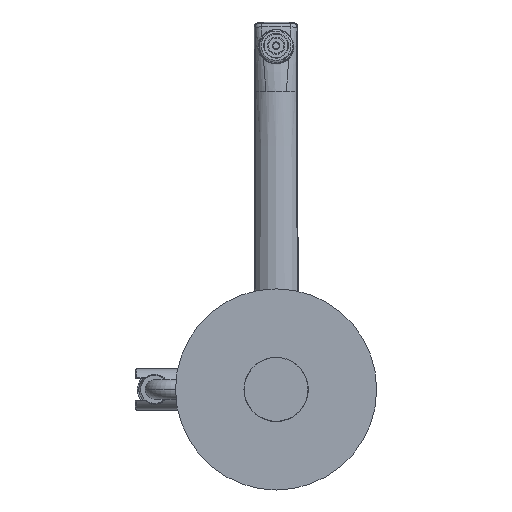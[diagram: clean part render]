
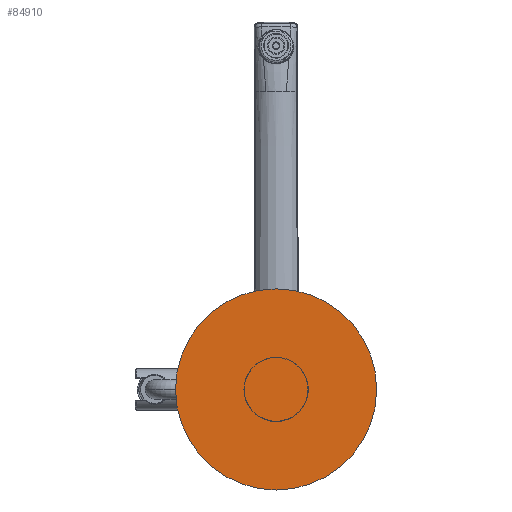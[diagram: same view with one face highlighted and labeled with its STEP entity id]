
A CAD part, front view. The second image highlights one B-rep face of the part: STEP entity #84910.
In plain terms, the highlighted planar face has unit normal (0, -1, 0).
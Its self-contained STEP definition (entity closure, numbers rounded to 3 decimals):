
#84715=CARTESIAN_POINT('',(0.,-876.75,
0.));
#84716=DIRECTION('',(0.,-1.,0.));
#84717=DIRECTION('',(-1.,0.,0.));
#84718=AXIS2_PLACEMENT_3D('',#84715,#84716,#84717);
#84720=CARTESIAN_POINT('',(0.,-876.75,
0.));
#84721=DIRECTION('',(0.,1.,0.));
#84722=DIRECTION('',(-1.,0.,0.));
#84723=AXIS2_PLACEMENT_3D('',#84720,#84721,#84722);
#84725=CARTESIAN_POINT('',(-72.5,-876.75,0.));
#84726=CARTESIAN_POINT('',(72.5,-876.75,0.));
#84727=VERTEX_POINT('',#84725);
#84728=VERTEX_POINT('',#84726);
#84901=CARTESIAN_POINT('',(0.,-876.75,
0.));
#84902=DIRECTION('',(0.,-1.,0.));
#84903=DIRECTION('',(-1.,0.,0.));
#84904=AXIS2_PLACEMENT_3D('',#84901,#84902,#84903);
#84905=PLANE('',#84904);
#84906=ORIENTED_EDGE('',*,*,#84867,.F.);
#84907=ORIENTED_EDGE('',*,*,#84884,.T.);
#84908=EDGE_LOOP('',(#84906,#84907));
#84909=FACE_OUTER_BOUND('',#84908,.F.);
#84910=ADVANCED_FACE('',(#84909),#84905,.T.);
#84719=CIRCLE('',#84718,72.5);
#84724=CIRCLE('',#84723,72.5);
#84867=EDGE_CURVE('',#84727,#84728,#84719,.T.);
#84884=EDGE_CURVE('',#84727,#84728,#84724,.T.);
